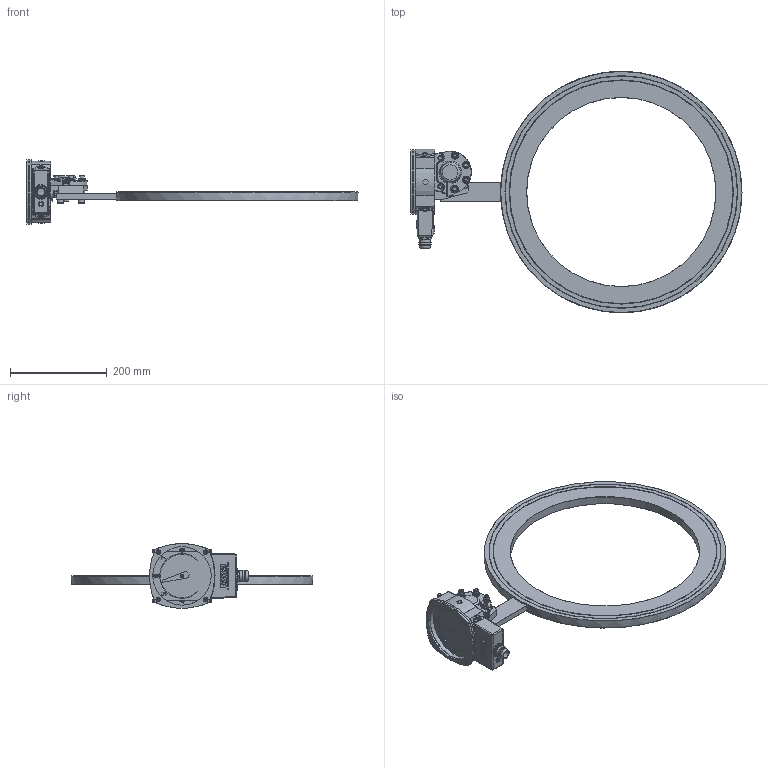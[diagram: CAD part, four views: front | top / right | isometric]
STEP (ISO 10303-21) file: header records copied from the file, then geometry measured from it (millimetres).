
FILE_DESCRIPTION(/* description */ ('Alibre Inc.'),/* implementation_level */ '2;1');
FILE_NAME(/* name */ 'export0',/* time_stamp */ '2012-10-19T13:42:50+02:00',/* author */ (''),/* organization */ (''),/* preprocessor_version */ 'ST-DEVELOPER v14',/* originating_system */ 'Alibre',/* authorisation */ '');
FILE_SCHEMA (('CONFIG_CONTROL_DESIGN'));
Length unit declared in the file: centimetre
Products named in the file (19): ID_1; ID_2; ID_3; ID_4; ID_5; ID_6; ID_7; ID_8; ID_9; ID_10; ID_11; ID_12; ID_13; ID_14
Bounding box: 684.78 x 498 x 132.89 mm (x, y, z)
Volume: 1834522.5 mm3; surface area: 430749 mm2
Topology: 31 solids, 31 shells, 1720 faces, 4140 edges, 2551 vertices
Faces by surface type: plane 762, bspline 365, cylinder 322, torus 158, cone 87, sphere 26
Full cylindrical faces by diameter (mm): 3.9 x2, 5 x18, 5.2 x2, 5.5 x5, 5.541 x2, 6 x28, 6.35 x2, 6.5 x7, 8 x7, 8.5 x2, 9.6 x6, 10 x11, 10.5 x1, 12 x3, 13 x2, 14 x3, 16 x1, 19.5 x1, 22 x2, 22.5 x4, 25 x1, 29 x1, 31 x1, 120.5 x3, 123.4 x1, 129 x1, 390 x1, 461 x2, 462 x2, 479 x2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
Entity records: 60441 total; most frequent: CARTESIAN_POINT 28535, ORIENTED_EDGE 6448, DIRECTION 4830, EDGE_CURVE 3224, VERTEX_POINT 2110, AXIS2_PLACEMENT_3D 2015, EDGE_LOOP 1786, FACE_BOUND 1786
